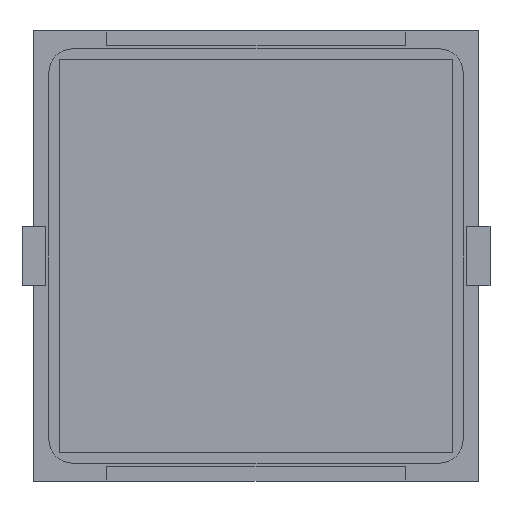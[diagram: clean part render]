
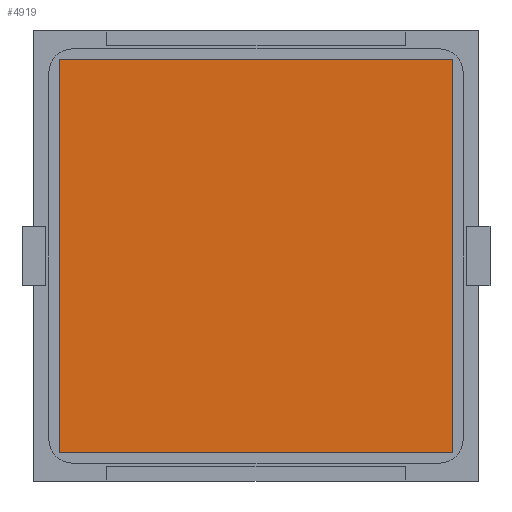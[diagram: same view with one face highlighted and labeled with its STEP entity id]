
A CAD part, front view. The second image highlights one B-rep face of the part: STEP entity #4919.
In plain terms, the highlighted planar face has unit normal (0, -1, 0).
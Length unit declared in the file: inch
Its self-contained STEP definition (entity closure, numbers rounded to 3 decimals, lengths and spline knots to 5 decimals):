
#1418 = LINE ( 'NONE', #10224, #14062 ) ;
#1661 = DIRECTION ( 'NONE',  ( 1., 0., 0. ) ) ;
#2237 = EDGE_CURVE ( 'NONE', #12559, #4684, #6578, .T. ) ;
#2256 = DIRECTION ( 'NONE',  ( 0., -1., 0. ) ) ;
#2898 = CARTESIAN_POINT ( 'NONE',  ( -0.64961, -0.005, -0.64961 ) ) ;
#2977 = CARTESIAN_POINT ( 'NONE',  ( 0.64961, -0.005, -0.64961 ) ) ;
#3363 = EDGE_LOOP ( 'NONE', ( #15077, #10837, #10703, #12547 ) ) ;
#3963 = DIRECTION ( 'NONE',  ( 0., 0., 1. ) ) ;
#4146 = CARTESIAN_POINT ( 'NONE',  ( 0.64961, -0.005, 0.64961 ) ) ;
#4670 = CARTESIAN_POINT ( 'NONE',  ( 0.64961, -0.005, 0.64961 ) ) ;
#4684 = VERTEX_POINT ( 'NONE', #15752 ) ;
#4919 = ADVANCED_FACE ( 'NONE', ( #9590 ), #13315, .T. ) ;
#5378 = EDGE_CURVE ( 'NONE', #4684, #6304, #1418, .T. ) ;
#5588 = CARTESIAN_POINT ( 'NONE',  ( -0.64961, -0.005, 0.64961 ) ) ;
#6304 = VERTEX_POINT ( 'NONE', #7863 ) ;
#6578 = LINE ( 'NONE', #2898, #11486 ) ;
#6673 = VECTOR ( 'NONE', #7193, 39.37008 ) ;
#7193 = DIRECTION ( 'NONE',  ( -1., 0., 0. ) ) ;
#7312 = VERTEX_POINT ( 'NONE', #4146 ) ;
#7863 = CARTESIAN_POINT ( 'NONE',  ( 0.64961, -0.005, -0.64961 ) ) ;
#8412 = AXIS2_PLACEMENT_3D ( 'NONE', #4670, #2256, #15799 ) ;
#9590 = FACE_OUTER_BOUND ( 'NONE', #3363, .T. ) ;
#10224 = CARTESIAN_POINT ( 'NONE',  ( 0.64961, -0.005, -0.64961 ) ) ;
#10353 = LINE ( 'NONE', #2977, #11968 ) ;
#10703 = ORIENTED_EDGE ( 'NONE', *, *, #2237, .T. ) ;
#10837 = ORIENTED_EDGE ( 'NONE', *, *, #16076, .T. ) ;
#11108 = CARTESIAN_POINT ( 'NONE',  ( 0.64961, -0.005, 0.64961 ) ) ;
#11486 = VECTOR ( 'NONE', #15318, 39.37008 ) ;
#11968 = VECTOR ( 'NONE', #3963, 39.37008 ) ;
#12547 = ORIENTED_EDGE ( 'NONE', *, *, #5378, .T. ) ;
#12559 = VERTEX_POINT ( 'NONE', #5588 ) ;
#13315 = PLANE ( 'NONE',  #8412 ) ;
#13365 = LINE ( 'NONE', #11108, #6673 ) ;
#14062 = VECTOR ( 'NONE', #1661, 39.37008 ) ;
#15077 = ORIENTED_EDGE ( 'NONE', *, *, #15677, .T. ) ;
#15318 = DIRECTION ( 'NONE',  ( 0., 0., -1. ) ) ;
#15677 = EDGE_CURVE ( 'NONE', #6304, #7312, #10353, .T. ) ;
#15752 = CARTESIAN_POINT ( 'NONE',  ( -0.64961, -0.005, -0.64961 ) ) ;
#15799 = DIRECTION ( 'NONE',  ( 0., 0., 1. ) ) ;
#16076 = EDGE_CURVE ( 'NONE', #7312, #12559, #13365, .T. ) ;
